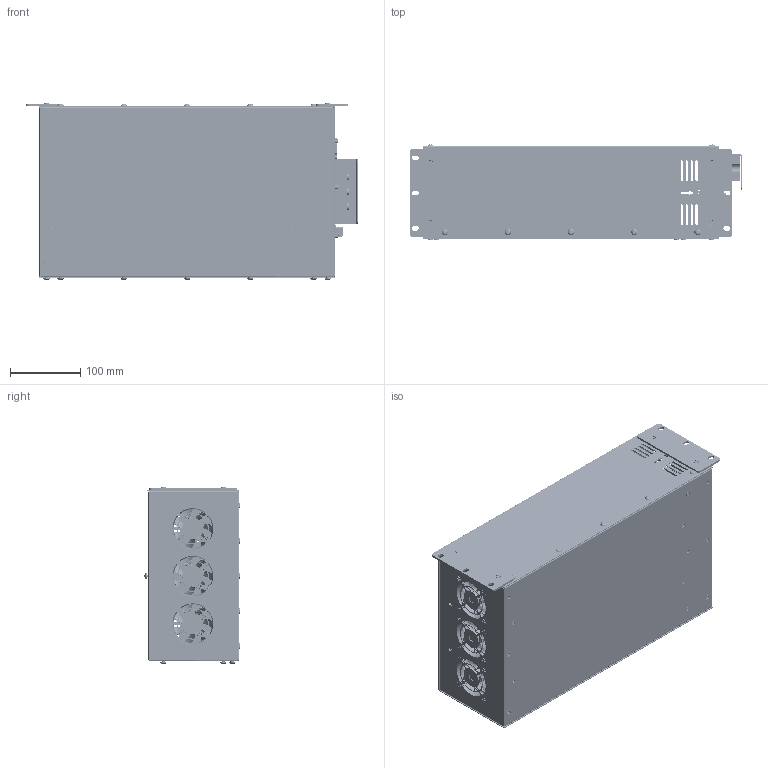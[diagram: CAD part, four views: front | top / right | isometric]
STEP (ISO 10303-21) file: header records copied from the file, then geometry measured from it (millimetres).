
FILE_DESCRIPTION(/* description */ (''),/* implementation_level */ '2;1');
FILE_NAME(/* name */ '',/* time_stamp */ '2026-06-17T15:27:44+09:00',/* author */ ('Administrator'),/* organization */ (''),/* preprocessor_version */ 'ST-DEVELOPER v20.1',/* originating_system */ 'Autodesk Inventor 2026',/* authorisation */ '');
FILE_SCHEMA (('AUTOMOTIVE_DESIGN { 1 0 10303 214 3 1 1 }'));
Products named in the file (1): VX3COM_OLED_V_21pitch단자대_2026.06.17_
단순화_1
Bounding box: 471.02 x 134.93 x 251.17 mm (x, y, z)
Volume: 725377.6 mm3; surface area: 918557.9 mm2
Topology: 15 solids, 15 shells, 9085 faces, 24205 edges, 15737 vertices
Faces by surface type: plane 5385, cylinder 1882, bspline 1565, torus 154, cone 68, sphere 31
Full cylindrical faces by diameter (mm): 0.013 x9, 0.6 x3, 0.609 x1, 0.61 x27, 0.635 x9, 0.7 x18, 0.75 x18, 0.85 x3, 0.9 x24, 1 x5, 1.397 x9, 1.5 x4, 2.1 x4, 2.286 x9, 2.5 x4, 2.8 x12, 2.957 x12, 3 x6, 3.048 x4, 3.4 x5, 3.6 x25, 3.783 x2, 3.8 x14, 3.9 x2, 4 x17, 4.3 x12, 4.5 x20, 5 x28, 5.3 x10, 5.4 x6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
Entity records: 323205 total; most frequent: CARTESIAN_POINT 93135, ORIENTED_EDGE 48364, DIRECTION 41196, EDGE_CURVE 24182, LINE 15960, VECTOR 15960, VERTEX_POINT 15737, AXIS2_PLACEMENT_3D 12618
